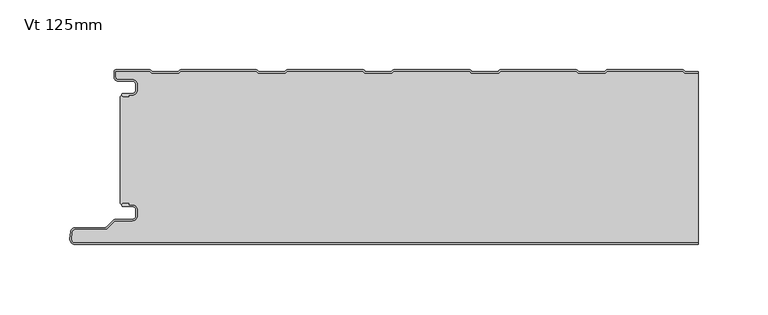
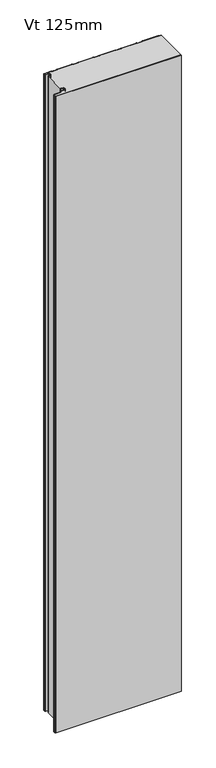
"""IFC4 building model written with IfcOpenShell, lengths in millimetres: plate geometry, KIP-MEX-KSS-1067-R19-CP-Vt-OP_SL : Vt 125mm."""

from ifc_helpers import new_model, si_unit, point, frame, frame_2d, origin, origin_with_axes, place, context, project, spatial, polyline, circle_curve, trimmed, segment, composite_curve, outline, extrude, source, transform, mapped, element, save
from ifc_brep_helpers import plane_surface, cylinder_surface, revolved_surface, advanced_brep


def vt_125mm_141aa0a6(model_context):
    return source(origin(), model_context, "Body", "SolidModel", [
        advanced_brep(
        [(-204.468691, -17.0015159, 2400.0), (-205.4686883, -18.0015191, 2400.0), (-204.468691, -19.0015105, 2400.0), (-200.4684874, -19.0015105, 2400.0), (-200.4684874, -18.0015159, 2400.0), (-197.7762776, -18.0015159, 2400.0), (-194.4762819, -14.7015202, 2400.0), (-194.4762819, -10.301529, 2400.0), (-197.7762774, -7.0015335, 2400.0), (-208.1962563, -7.0015335, 2400.0), (-209.9662505, -5.2315393, 2400.0), (-209.9662505, -0.9999916, 2400.0), (-185.4659738, -0.9999916, 2400.0), (-184.0803312, -2.2002307, 2400.0), (-164.7051649, -2.2002307, 2400.0), (-163.319532, -1.0, 2400.0), (-109.2661166, -1.0, 2400.0), (-107.8804836, -2.2002307, 2400.0), (-88.5053173, -2.2002307, 2400.0), (-87.1196844, -1.0, 2400.0), (-33.066269, -1.0, 2400.0), (-31.680636, -2.2002307, 2400.0), (-12.3054697, -2.2002307, 2400.0), (-10.9198368, -1.0, 2400.0), (43.1335786, -1.0, 2400.0), (44.5192116, -2.2002307, 2400.0), (63.8943779, -2.2002307, 2400.0), (65.2800108, -1.0, 2400.0), (119.3334262, -1.0, 2400.0), (120.7190592, -2.2002307, 2400.0), (140.0942255, -2.2002307, 2400.0), (141.4798584, -1.0, 2400.0), (195.5332738, -1.0, 2400.0), (196.9189068, -2.2002307, 2400.0), (206.4999998, -2.2002307, 2400.0), (206.4999998, -1.2002307, 2400.0), (197.2917872, -1.2002307, 2400.0), (196.3007396, -0.3417885, 2400.0), (195.3841227, 0.0, 2400.0), (141.6290096, 0.0, 2400.0), (140.7123927, -0.3417885, 2400.0), (139.7213451, -1.2002307, 2400.0), (121.0919396, -1.2002307, 2400.0), (120.100892, -0.3417885, 2400.0), (119.1842751, 0.0, 2400.0), (65.429162, 0.0, 2400.0), (64.5125451, -0.3417885, 2400.0), (63.5214975, -1.2002307, 2400.0), (44.892092, -1.2002307, 2400.0), (43.9010444, -0.3417885, 2400.0), (42.9844275, 0.0, 2400.0), (-10.7706856, 0.0, 2400.0), (-11.6873025, -0.3417885, 2400.0), (-12.6783501, -1.2002307, 2400.0), (-31.3077556, -1.2002307, 2400.0), (-32.2988032, -0.3417885, 2400.0), (-33.2154201, 0.0, 2400.0), (-86.9705332, 0.0, 2400.0), (-87.8871501, -0.3417885, 2400.0), (-88.8781977, -1.2002307, 2400.0), (-107.5076032, -1.2002307, 2400.0), (-108.4986508, -0.3417885, 2400.0), (-109.4152677, 0.0, 2400.0), (-163.1703808, 0.0, 2400.0), (-164.0869977, -0.3417885, 2400.0), (-165.0780453, -1.2002307, 2400.0), (-183.7074508, -1.2002307, 2400.0), (-184.6984984, -0.3417885, 2400.0), (-185.6152067, 0.0, 2400.0), (-209.5662543, 8.4e-06, 2400.0), (-210.9662505, -1.3999878, 2400.0), (-210.9662505, -5.2315393, 2400.0), (-208.1962563, -8.0015335, 2400.0), (-197.7762774, -8.0015335, 2400.0), (-195.4762819, -10.301529, 2400.0), (-195.4762819, -14.7015202, 2400.0), (-197.7762776, -17.0015159, 2400.0), (-204.468691, -17.0015159, 0.0), (-197.7762776, -17.0015159, 0.0), (-195.4762819, -14.7015202, 0.0), (-195.4762819, -10.301529, 0.0), (-197.7762774, -8.0015335, 0.0), (-208.1962563, -8.0015335, 0.0), (-210.9662505, -5.2315393, 0.0), (-210.9662505, -1.3999878, 0.0), (-209.5662543, 8.4e-06, 0.0), (-185.6151153, 8.4e-06, 0.0), (-184.6984984, -0.3417885, 0.0), (-183.7074508, -1.2002307, 0.0), (-165.0780453, -1.2002307, 0.0), (-164.0869977, -0.3417885, 0.0), (-163.1703808, 0.0, 0.0), (-109.4152677, 0.0, 0.0), (-108.4986508, -0.3417885, 0.0), (-107.5076032, -1.2002307, 0.0), (-88.8781977, -1.2002307, 0.0), (-87.8871501, -0.3417885, 0.0), (-86.9705332, 0.0, 0.0), (-33.2154201, 0.0, 0.0), (-32.2988032, -0.3417885, 0.0), (-31.3077556, -1.2002307, 0.0), (-12.6783501, -1.2002307, 0.0), (-11.6873025, -0.3417885, 0.0), (-10.7706856, 0.0, 0.0), (42.9844275, 0.0, 0.0), (43.9010444, -0.3417885, 0.0), (44.892092, -1.2002307, 0.0), (63.5214975, -1.2002307, 0.0), (64.5125451, -0.3417885, 0.0), (65.429162, 0.0, 0.0), (119.1842751, 0.0, 0.0), (120.100892, -0.3417885, 0.0), (121.0919396, -1.2002307, 0.0), (139.7213451, -1.2002307, 0.0), (140.7123927, -0.3417885, 0.0), (141.6290096, 0.0, 0.0), (195.3841227, 0.0, 0.0), (196.3007396, -0.3417885, 0.0), (197.2917872, -1.2002307, 0.0), (206.4999998, -1.2002307, 0.0), (206.4999998, -2.2002307, 0.0), (196.9189068, -2.2002307, 0.0), (195.5332738, -1.0, 0.0), (141.4798584, -1.0, 0.0), (140.0942255, -2.2002307, 0.0), (120.7190592, -2.2002307, 0.0), (119.3334262, -1.0, 0.0), (65.2800108, -1.0, 0.0), (63.8943779, -2.2002307, 0.0), (44.5192116, -2.2002307, 0.0), (43.1335786, -1.0, 0.0), (-10.9198368, -1.0, 0.0), (-12.3054697, -2.2002307, 0.0), (-31.680636, -2.2002307, 0.0), (-33.066269, -1.0, 0.0), (-87.1196844, -1.0, 0.0), (-88.5053173, -2.2002307, 0.0), (-107.8804836, -2.2002307, 0.0), (-109.2661166, -1.0, 0.0), (-163.319532, -1.0, 0.0), (-164.7051649, -2.2002307, 0.0), (-184.0803312, -2.2002307, 0.0), (-185.4659738, -0.9999916, 0.0), (-209.9662505, -0.9999916, 0.0), (-209.9662505, -5.2315393, 0.0), (-208.1962563, -7.0015335, 0.0), (-197.7762774, -7.0015335, 0.0), (-194.4762819, -10.301529, 0.0), (-194.4762819, -14.7015202, 0.0), (-197.7762776, -18.0015159, 0.0), (-200.4684874, -18.0015159, 0.0), (-200.4684874, -19.0015105, 0.0), (-204.468691, -19.0015105, 0.0), (-205.4686882, -18.0015192, 0.0)],
        [
            (0, 1, circle_curve(frame((-204.468691, -18.0015132, 2400.0), z_axis=(0.0, 0.0, 1.0), x_axis=(1.0, 0.0, 0.0)), 0.9999973)),
            (1, 2, circle_curve(frame((-204.468691, -18.0015133, 2400.0), z_axis=(0.0, 0.0, 1.0), x_axis=(1.0, 0.0, 0.0)), 0.9999972)),
            (2, 3),
            (3, 4),
            (4, 5),
            (5, 6, circle_curve(frame((-197.7762776, -14.7015202, 2400.0), z_axis=(0.0, 0.0, 1.0), x_axis=(1.0, 0.0, 0.0)), 3.2999957)),
            (6, 7),
            (7, 8, circle_curve(frame((-197.7762774, -10.301529, 2400.0), z_axis=(0.0, 0.0, 1.0), x_axis=(1.0, 0.0, 0.0)), 3.2999955)),
            (8, 9),
            (9, 10, circle_curve(frame((-208.1962563, -5.2315393, 2400.0), z_axis=(0.0, 0.0, -1.0), x_axis=(1.0, 0.0, 0.0)), 1.7699942)),
            (10, 11),
            (11, 12),
            (12, 13),
            (13, 14),
            (14, 15),
            (15, 16),
            (16, 17),
            (17, 18),
            (18, 19),
            (19, 20),
            (20, 21),
            (21, 22),
            (22, 23),
            (23, 24),
            (24, 25),
            (25, 26),
            (26, 27),
            (27, 28),
            (28, 29),
            (29, 30),
            (30, 31),
            (31, 32),
            (32, 33),
            (33, 34),
            (34, 35),
            (35, 36),
            (36, 37),
            (37, 38, circle_curve(frame((195.3841227, -1.3999972, 2400.0), z_axis=(0.0, 0.0, 1.0), x_axis=(1.0, 0.0, 0.0)), 1.3999972)),
            (38, 39),
            (39, 40, circle_curve(frame((141.6290096, -1.3999972, 2400.0), z_axis=(0.0, 0.0, 1.0), x_axis=(1.0, 0.0, 0.0)), 1.3999972)),
            (40, 41),
            (41, 42),
            (42, 43),
            (43, 44, circle_curve(frame((119.1842751, -1.3999972, 2400.0), z_axis=(0.0, 0.0, 1.0), x_axis=(1.0, 0.0, 0.0)), 1.3999972)),
            (44, 45),
            (45, 46, circle_curve(frame((65.429162, -1.3999972, 2400.0), z_axis=(0.0, 0.0, 1.0), x_axis=(1.0, 0.0, 0.0)), 1.3999972)),
            (46, 47),
            (47, 48),
            (48, 49),
            (49, 50, circle_curve(frame((42.9844275, -1.3999972, 2400.0), z_axis=(0.0, 0.0, 1.0), x_axis=(1.0, 0.0, 0.0)), 1.3999972)),
            (50, 51),
            (51, 52, circle_curve(frame((-10.7706856, -1.3999972, 2400.0), z_axis=(0.0, 0.0, 1.0), x_axis=(1.0, 0.0, 0.0)), 1.3999972)),
            (52, 53),
            (53, 54),
            (54, 55),
            (55, 56, circle_curve(frame((-33.2154201, -1.3999972, 2400.0), z_axis=(0.0, 0.0, 1.0), x_axis=(1.0, 0.0, 0.0)), 1.3999972)),
            (56, 57),
            (57, 58, circle_curve(frame((-86.9705332, -1.3999972, 2400.0), z_axis=(0.0, 0.0, 1.0), x_axis=(1.0, 0.0, 0.0)), 1.3999972)),
            (58, 59),
            (59, 60),
            (60, 61),
            (61, 62, circle_curve(frame((-109.4152677, -1.3999972, 2400.0), z_axis=(0.0, 0.0, 1.0), x_axis=(1.0, 0.0, 0.0)), 1.3999972)),
            (62, 63),
            (63, 64, circle_curve(frame((-163.1703808, -1.3999972, 2400.0), z_axis=(0.0, 0.0, 1.0), x_axis=(1.0, 0.0, 0.0)), 1.3999972)),
            (64, 65),
            (65, 66),
            (66, 67),
            (67, 68, circle_curve(frame((-185.6151153, -1.3999972, 2400.0), z_axis=(0.0, 0.0, 1.0), x_axis=(1.0, 0.0, 0.0)), 1.3999972)),
            (68, 69),
            (69, 70, circle_curve(frame((-209.5662543, -1.3999878, 2400.0), z_axis=(0.0, 0.0, 1.0), x_axis=(1.0, 0.0, 0.0)), 1.3999962)),
            (70, 71),
            (71, 72, circle_curve(frame((-208.1962563, -5.2315393, 2400.0), z_axis=(0.0, 0.0, 1.0), x_axis=(1.0, 0.0, 0.0)), 2.7699942)),
            (72, 73),
            (73, 74, circle_curve(frame((-197.7762774, -10.301529, 2400.0), z_axis=(0.0, 0.0, -1.0), x_axis=(1.0, 0.0, 0.0)), 2.2999955)),
            (74, 75),
            (75, 76, circle_curve(frame((-197.7762776, -14.7015202, 2400.0), z_axis=(0.0, 0.0, -1.0), x_axis=(1.0, 0.0, 0.0)), 2.2999957)),
            (76, 0),
            (77, 78),
            (78, 79, circle_curve(frame((-197.7762776, -14.7015202, 0.0), z_axis=(0.0, 0.0, 1.0), x_axis=(1.0, 0.0, 0.0)), 2.2999957)),
            (79, 80),
            (80, 81, circle_curve(frame((-197.7762774, -10.301529, 0.0), z_axis=(0.0, 0.0, 1.0), x_axis=(1.0, 0.0, 0.0)), 2.2999955)),
            (81, 82),
            (82, 83, circle_curve(frame((-208.1962563, -5.2315393, 0.0), z_axis=(0.0, 0.0, -1.0), x_axis=(1.0, 0.0, 0.0)), 2.7699942)),
            (83, 84),
            (84, 85, circle_curve(frame((-209.5662543, -1.3999878, 0.0), z_axis=(0.0, 0.0, -1.0), x_axis=(1.0, 0.0, 0.0)), 1.3999962)),
            (85, 86),
            (86, 87, circle_curve(frame((-185.6151153, -1.3999972, 0.0), z_axis=(0.0, 0.0, -1.0), x_axis=(1.0, 0.0, 0.0)), 1.3999972)),
            (87, 88),
            (88, 89),
            (89, 90),
            (90, 91, circle_curve(frame((-163.1703808, -1.3999972, 0.0), z_axis=(0.0, 0.0, -1.0), x_axis=(1.0, 0.0, 0.0)), 1.3999972)),
            (91, 92),
            (92, 93, circle_curve(frame((-109.4152677, -1.3999972, 0.0), z_axis=(0.0, 0.0, -1.0), x_axis=(1.0, 0.0, 0.0)), 1.3999972)),
            (93, 94),
            (94, 95),
            (95, 96),
            (96, 97, circle_curve(frame((-86.9705332, -1.3999972, 0.0), z_axis=(0.0, 0.0, -1.0), x_axis=(1.0, 0.0, 0.0)), 1.3999972)),
            (97, 98),
            (98, 99, circle_curve(frame((-33.2154201, -1.3999972, 0.0), z_axis=(0.0, 0.0, -1.0), x_axis=(1.0, 0.0, 0.0)), 1.3999972)),
            (99, 100),
            (100, 101),
            (101, 102),
            (102, 103, circle_curve(frame((-10.7706856, -1.3999972, 0.0), z_axis=(0.0, 0.0, -1.0), x_axis=(1.0, 0.0, 0.0)), 1.3999972)),
            (103, 104),
            (104, 105, circle_curve(frame((42.9844275, -1.3999972, 0.0), z_axis=(0.0, 0.0, -1.0), x_axis=(1.0, 0.0, 0.0)), 1.3999972)),
            (105, 106),
            (106, 107),
            (107, 108),
            (108, 109, circle_curve(frame((65.429162, -1.3999972, 0.0), z_axis=(0.0, 0.0, -1.0), x_axis=(1.0, 0.0, 0.0)), 1.3999972)),
            (109, 110),
            (110, 111, circle_curve(frame((119.1842751, -1.3999972, 0.0), z_axis=(0.0, 0.0, -1.0), x_axis=(1.0, 0.0, 0.0)), 1.3999972)),
            (111, 112),
            (112, 113),
            (113, 114),
            (114, 115, circle_curve(frame((141.6290096, -1.3999972, 0.0), z_axis=(0.0, 0.0, -1.0), x_axis=(1.0, 0.0, 0.0)), 1.3999972)),
            (115, 116),
            (116, 117, circle_curve(frame((195.3841227, -1.3999972, 0.0), z_axis=(0.0, 0.0, -1.0), x_axis=(1.0, 0.0, 0.0)), 1.3999972)),
            (117, 118),
            (118, 119),
            (119, 120),
            (120, 121),
            (121, 122),
            (122, 123),
            (123, 124),
            (124, 125),
            (125, 126),
            (126, 127),
            (127, 128),
            (128, 129),
            (129, 130),
            (130, 131),
            (131, 132),
            (132, 133),
            (133, 134),
            (134, 135),
            (135, 136),
            (136, 137),
            (137, 138),
            (138, 139),
            (139, 140),
            (140, 141),
            (141, 142),
            (142, 143),
            (143, 144),
            (144, 145, circle_curve(frame((-208.1962563, -5.2315393, 0.0), z_axis=(0.0, 0.0, 1.0), x_axis=(1.0, 0.0, 0.0)), 1.7699942)),
            (145, 146),
            (146, 147, circle_curve(frame((-197.7762774, -10.301529, 0.0), z_axis=(0.0, 0.0, -1.0), x_axis=(1.0, 0.0, 0.0)), 3.2999955)),
            (147, 148),
            (148, 149, circle_curve(frame((-197.7762776, -14.7015202, 0.0), z_axis=(0.0, 0.0, -1.0), x_axis=(1.0, 0.0, 0.0)), 3.2999957)),
            (149, 150),
            (150, 151),
            (151, 152),
            (152, 153, circle_curve(frame((-204.468691, -18.0015133, 0.0), z_axis=(0.0, 0.0, -1.0), x_axis=(1.0, 0.0, 0.0)), 0.9999972)),
            (153, 77, circle_curve(frame((-204.468691, -18.0015132, 0.0), z_axis=(0.0, 0.0, -1.0), x_axis=(1.0, 0.0, 0.0)), 0.9999973)),
            (76, 78),
            (77, 0),
            (75, 79),
            (74, 80),
            (73, 81),
            (72, 82),
            (71, 83),
            (70, 84),
            (69, 85),
            (68, 86),
            (67, 87),
            (66, 88),
            (65, 89),
            (64, 90),
            (63, 91),
            (62, 92),
            (61, 93),
            (60, 94),
            (59, 95),
            (58, 96),
            (57, 97),
            (56, 98),
            (55, 99),
            (54, 100),
            (53, 101),
            (52, 102),
            (51, 103),
            (50, 104),
            (49, 105),
            (48, 106),
            (47, 107),
            (46, 108),
            (45, 109),
            (44, 110),
            (43, 111),
            (42, 112),
            (41, 113),
            (40, 114),
            (39, 115),
            (38, 116),
            (37, 117),
            (36, 118),
            (35, 119),
            (120, 34),
            (33, 121),
            (32, 122),
            (31, 123),
            (30, 124),
            (29, 125),
            (28, 126),
            (27, 127),
            (26, 128),
            (25, 129),
            (24, 130),
            (23, 131),
            (22, 132),
            (21, 133),
            (20, 134),
            (19, 135),
            (18, 136),
            (17, 137),
            (16, 138),
            (15, 139),
            (14, 140),
            (13, 141),
            (12, 142),
            (11, 143),
            (10, 144),
            (9, 145),
            (8, 146),
            (7, 147),
            (6, 148),
            (5, 149),
            (4, 150),
            (3, 151),
            (2, 152),
            (1, 153),
        ],
        [
            plane_surface(frame((326.9000002, 0.0, 2400.0), z_axis=(0.0, 0.0, 1.0), x_axis=(0.0, 1.0, 0.0))),
            plane_surface(frame((326.9000002, 0.0, 0.0), z_axis=(0.0, 0.0, -1.0), x_axis=(0.0, 1.0, 0.0))),
            plane_surface(frame((-204.468691, -17.0015159, 2400.0), z_axis=(0.0, 1.0, 0.0), x_axis=(0.0, 0.0, -1.0))),
            revolved_surface(polyline([(-195.47628189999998, -14.7015202, 0.0), (-195.47628189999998, -14.7015202, 2400.0)]), (-197.7762776, -14.7015202, 2400.0), (0.0, 0.0, -1.0)),
            plane_surface(frame((-195.4762819, -14.7015202, 2400.0), z_axis=(-1.0, 0.0, 0.0), x_axis=(0.0, 0.0, -1.0))),
            revolved_surface(polyline([(-195.4762819, -10.301529, 0.0), (-195.4762819, -10.301529, 2400.0)]), (-197.7762774, -10.301529, 2400.0), (0.0, 0.0, -1.0)),
            plane_surface(frame((-197.7762774, -8.0015335, 2400.0), z_axis=(0.0, -1.0, 0.0), x_axis=(0.0, 0.0, -1.0))),
            cylinder_surface(frame((-208.1962563, -5.2315393, 2400.0), z_axis=(0.0, 0.0, 1.0), x_axis=(1.0, 0.0, 0.0)), 2.7699942),
            plane_surface(frame((-210.9662505, -5.2315393, 2400.0), z_axis=(-1.0, 0.0, 0.0), x_axis=(0.0, 0.0, -1.0))),
            cylinder_surface(frame((-209.5662543, -1.3999878, 2400.0), z_axis=(0.0, 0.0, 1.0), x_axis=(1.0, 0.0, 0.0)), 1.3999962),
            plane_surface(frame((-209.5662543, 8.4e-06, 2400.0), z_axis=(0.0, 1.0, 0.0), x_axis=(0.0, 0.0, -1.0))),
            cylinder_surface(frame((-185.6151153, -1.3999972, 2400.0), z_axis=(0.0, 0.0, 1.0), x_axis=(1.0, 0.0, 0.0)), 1.3999972),
            plane_surface(frame((-184.6984984, -0.3417885, 2400.0), z_axis=(0.6547276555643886, 0.755864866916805, 0.0), x_axis=(0.0, 0.0, -1.0))),
            plane_surface(frame((-174.3927481, -1.2002307, 2400.0), z_axis=(0.0, 1.0, 0.0), x_axis=(0.0, 0.0, -1.0))),
            plane_surface(frame((-165.0780453, -1.2002307, 2400.0), z_axis=(-0.6547276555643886, 0.755864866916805, 0.0), x_axis=(0.0, 0.0, -1.0))),
            cylinder_surface(frame((-163.1703808, -1.3999972, 2400.0), z_axis=(0.0, 0.0, 1.0), x_axis=(1.0, 0.0, 0.0)), 1.3999972),
            plane_surface(frame((-163.1703808, 0.0, 2400.0), z_axis=(0.0, 1.0, 0.0), x_axis=(0.0, 0.0, -1.0))),
            cylinder_surface(frame((-109.4152677, -1.3999972, 2400.0), z_axis=(0.0, 0.0, 1.0), x_axis=(1.0, 0.0, 0.0)), 1.3999972),
            plane_surface(frame((-108.4986508, -0.3417885, 2400.0), z_axis=(0.6547276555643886, 0.755864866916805, 0.0), x_axis=(0.0, 0.0, -1.0))),
            plane_surface(frame((-98.1929005, -1.2002307, 2400.0), z_axis=(0.0, 1.0, 0.0), x_axis=(0.0, 0.0, -1.0))),
            plane_surface(frame((-88.8781977, -1.2002307, 2400.0), z_axis=(-0.6547276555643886, 0.755864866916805, 0.0), x_axis=(0.0, 0.0, -1.0))),
            cylinder_surface(frame((-86.9705332, -1.3999972, 2400.0), z_axis=(0.0, 0.0, 1.0), x_axis=(1.0, 0.0, 0.0)), 1.3999972),
            plane_surface(frame((-86.9705332, 0.0, 2400.0), z_axis=(0.0, 1.0, 0.0), x_axis=(0.0, 0.0, -1.0))),
            cylinder_surface(frame((-33.2154201, -1.3999972, 2400.0), z_axis=(0.0, 0.0, 1.0), x_axis=(1.0, 0.0, 0.0)), 1.3999972),
            plane_surface(frame((-32.2988032, -0.3417885, 2400.0), z_axis=(0.6547276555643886, 0.755864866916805, 0.0), x_axis=(0.0, 0.0, -1.0))),
            plane_surface(frame((-21.9930529, -1.2002307, 2400.0), z_axis=(0.0, 1.0, 0.0), x_axis=(0.0, 0.0, -1.0))),
            plane_surface(frame((-12.6783501, -1.2002307, 2400.0), z_axis=(-0.6547276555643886, 0.755864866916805, 0.0), x_axis=(0.0, 0.0, -1.0))),
            cylinder_surface(frame((-10.7706856, -1.3999972, 2400.0), z_axis=(0.0, 0.0, 1.0), x_axis=(1.0, 0.0, 0.0)), 1.3999972),
            plane_surface(frame((-10.7706856, 0.0, 2400.0), z_axis=(0.0, 1.0, 0.0), x_axis=(0.0, 0.0, -1.0))),
            cylinder_surface(frame((42.9844275, -1.3999972, 2400.0), z_axis=(0.0, 0.0, 1.0), x_axis=(1.0, 0.0, 0.0)), 1.3999972),
            plane_surface(frame((43.9010444, -0.3417885, 2400.0), z_axis=(0.6547276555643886, 0.755864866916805, 0.0), x_axis=(0.0, 0.0, -1.0))),
            plane_surface(frame((54.2067947, -1.2002307, 2400.0), z_axis=(0.0, 1.0, 0.0), x_axis=(0.0, 0.0, -1.0))),
            plane_surface(frame((63.5214975, -1.2002307, 2400.0), z_axis=(-0.6547276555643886, 0.755864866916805, 0.0), x_axis=(0.0, 0.0, -1.0))),
            cylinder_surface(frame((65.429162, -1.3999972, 2400.0), z_axis=(0.0, 0.0, 1.0), x_axis=(1.0, 0.0, 0.0)), 1.3999972),
            plane_surface(frame((65.429162, 0.0, 2400.0), z_axis=(0.0, 1.0, 0.0), x_axis=(0.0, 0.0, -1.0))),
            cylinder_surface(frame((119.1842751, -1.3999972, 2400.0), z_axis=(0.0, 0.0, 1.0), x_axis=(1.0, 0.0, 0.0)), 1.3999972),
            plane_surface(frame((120.100892, -0.3417885, 2400.0), z_axis=(0.6547276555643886, 0.755864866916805, 0.0), x_axis=(0.0, 0.0, -1.0))),
            plane_surface(frame((130.4066423, -1.2002307, 2400.0), z_axis=(0.0, 1.0, 0.0), x_axis=(0.0, 0.0, -1.0))),
            plane_surface(frame((139.7213451, -1.2002307, 2400.0), z_axis=(-0.6547276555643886, 0.755864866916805, 0.0), x_axis=(0.0, 0.0, -1.0))),
            cylinder_surface(frame((141.6290096, -1.3999972, 2400.0), z_axis=(0.0, 0.0, 1.0), x_axis=(1.0, 0.0, 0.0)), 1.3999972),
            plane_surface(frame((141.6290096, 0.0, 2400.0), z_axis=(0.0, 1.0, 0.0), x_axis=(0.0, 0.0, -1.0))),
            cylinder_surface(frame((195.3841227, -1.3999972, 2400.0), z_axis=(0.0, 0.0, 1.0), x_axis=(1.0, 0.0, 0.0)), 1.3999972),
            plane_surface(frame((196.3007396, -0.3417885, 2400.0), z_axis=(0.6547276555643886, 0.755864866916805, 0.0), x_axis=(0.0, 0.0, -1.0))),
            plane_surface(frame((206.6064899, -1.2002307, 2400.0), z_axis=(0.0, 1.0, 0.0), x_axis=(0.0, 0.0, -1.0))),
            plane_surface(frame((216.2940731, -2.2002307, 2400.0), z_axis=(0.0, -1.0, 0.0), x_axis=(0.0, 0.0, -1.0))),
            plane_surface(frame((196.9189068, -2.2002307, 2400.0), z_axis=(-0.6547276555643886, -0.755864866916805, 0.0), x_axis=(0.0, 0.0, -1.0))),
            plane_surface(frame((195.5332738, -1.0, 2400.0), z_axis=(0.0, -1.0, 0.0), x_axis=(0.0, 0.0, -1.0))),
            plane_surface(frame((141.4798584, -1.0, 2400.0), z_axis=(0.6547276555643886, -0.755864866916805, 0.0), x_axis=(0.0, 0.0, -1.0))),
            plane_surface(frame((140.0942255, -2.2002307, 2400.0), z_axis=(0.0, -1.0, 0.0), x_axis=(0.0, 0.0, -1.0))),
            plane_surface(frame((120.7190592, -2.2002307, 2400.0), z_axis=(-0.6547276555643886, -0.755864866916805, 0.0), x_axis=(0.0, 0.0, -1.0))),
            plane_surface(frame((119.3334262, -1.0, 2400.0), z_axis=(0.0, -1.0, 0.0), x_axis=(0.0, 0.0, -1.0))),
            plane_surface(frame((65.2800108, -1.0, 2400.0), z_axis=(0.6547276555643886, -0.755864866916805, 0.0), x_axis=(0.0, 0.0, -1.0))),
            plane_surface(frame((63.8943779, -2.2002307, 2400.0), z_axis=(0.0, -1.0, 0.0), x_axis=(0.0, 0.0, -1.0))),
            plane_surface(frame((44.5192116, -2.2002307, 2400.0), z_axis=(-0.6547276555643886, -0.755864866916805, 0.0), x_axis=(0.0, 0.0, -1.0))),
            plane_surface(frame((43.1335786, -1.0, 2400.0), z_axis=(0.0, -1.0, 0.0), x_axis=(0.0, 0.0, -1.0))),
            plane_surface(frame((-10.9198368, -1.0, 2400.0), z_axis=(0.6547276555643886, -0.755864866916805, 0.0), x_axis=(0.0, 0.0, -1.0))),
            plane_surface(frame((-12.3054697, -2.2002307, 2400.0), z_axis=(0.0, -1.0, 0.0), x_axis=(0.0, 0.0, -1.0))),
            plane_surface(frame((-31.680636, -2.2002307, 2400.0), z_axis=(-0.6547276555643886, -0.755864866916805, 0.0), x_axis=(0.0, 0.0, -1.0))),
            plane_surface(frame((-33.066269, -1.0, 2400.0), z_axis=(0.0, -1.0, 0.0), x_axis=(0.0, 0.0, -1.0))),
            plane_surface(frame((-87.1196844, -1.0, 2400.0), z_axis=(0.6547276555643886, -0.755864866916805, 0.0), x_axis=(0.0, 0.0, -1.0))),
            plane_surface(frame((-88.5053173, -2.2002307, 2400.0), z_axis=(0.0, -1.0, 0.0), x_axis=(0.0, 0.0, -1.0))),
            plane_surface(frame((-107.8804836, -2.2002307, 2400.0), z_axis=(-0.6547276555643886, -0.755864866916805, 0.0), x_axis=(0.0, 0.0, -1.0))),
            plane_surface(frame((-109.2661166, -1.0, 2400.0), z_axis=(0.0, -1.0, 0.0), x_axis=(0.0, 0.0, -1.0))),
            plane_surface(frame((-163.319532, -1.0, 2400.0), z_axis=(0.6547276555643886, -0.755864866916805, 0.0), x_axis=(0.0, 0.0, -1.0))),
            plane_surface(frame((-164.7051649, -2.2002307, 2400.0), z_axis=(0.0, -1.0, 0.0), x_axis=(0.0, 0.0, -1.0))),
            plane_surface(frame((-184.0803312, -2.2002307, 2400.0), z_axis=(-0.6547276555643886, -0.755864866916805, 0.0), x_axis=(0.0, 0.0, -1.0))),
            plane_surface(frame((-185.4659738, -0.9999916, 2400.0), z_axis=(0.0, -1.0, 0.0), x_axis=(0.0, 0.0, -1.0))),
            plane_surface(frame((-209.9662505, -0.9999916, 2400.0), z_axis=(1.0, 0.0, 0.0), x_axis=(0.0, 0.0, -1.0))),
            revolved_surface(polyline([(-206.42626209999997, -5.2315393, 0.0), (-206.42626209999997, -5.2315393, 2400.0)]), (-208.1962563, -5.2315393, 2400.0), (0.0, 0.0, -1.0)),
            plane_surface(frame((-208.1962563, -7.0015335, 2400.0), z_axis=(0.0, 1.0, 0.0), x_axis=(0.0, 0.0, -1.0))),
            cylinder_surface(frame((-197.7762774, -10.301529, 2400.0), z_axis=(0.0, 0.0, 1.0), x_axis=(1.0, 0.0, 0.0)), 3.2999955),
            plane_surface(frame((-194.4762819, -10.301529, 2400.0), z_axis=(1.0, 0.0, 0.0), x_axis=(0.0, 0.0, -1.0))),
            cylinder_surface(frame((-197.7762776, -14.7015202, 2400.0), z_axis=(0.0, 0.0, 1.0), x_axis=(1.0, 0.0, 0.0)), 3.2999957),
            plane_surface(frame((-197.7762776, -18.0015159, 2400.0), z_axis=(0.0, -1.0, 0.0), x_axis=(0.0, 0.0, -1.0))),
            plane_surface(frame((-200.4684874, -18.0015159, 2400.0), z_axis=(1.0, 0.0, 0.0), x_axis=(0.0, 0.0, -1.0))),
            plane_surface(frame((-200.4684874, -19.0015105, 2400.0), z_axis=(0.0, -1.0, 0.0), x_axis=(0.0, 0.0, -1.0))),
            cylinder_surface(frame((-204.468691, -18.0015133, 2400.0), z_axis=(0.0, 0.0, 1.0), x_axis=(1.0, 0.0, 0.0)), 0.9999972),
            cylinder_surface(frame((-204.468691, -18.0015132, 2400.0), z_axis=(0.0, 0.0, 1.0), x_axis=(1.0, 0.0, 0.0)), 0.9999973),
            plane_surface(frame((206.4999998, -135.0, 2400.0), z_axis=(1.0, 0.0, 0.0), x_axis=(0.0, 0.0, -1.0))),
        ],
        [
            (0, [[1, 2, 3, 4, 5, 6, 7, 8, 9, 10, 11, 12, 13, 14, 15, 16, 17, 18, 19, 20, 21, 22, 23, 24, 25, 26, 27, 28, 29, 30, 31, 32, 33, 34, 35, 36, 37, 38, 39, 40, 41, 42, 43, 44, 45, 46, 47, 48, 49, 50, 51, 52, 53, 54, 55, 56, 57, 58, 59, 60, 61, 62, 63, 64, 65, 66, 67, 68, 69, 70, 71, 72, 73, 74, 75, 76, 77]]),
            (1, [[78, 79, 80, 81, 82, 83, 84, 85, 86, 87, 88, 89, 90, 91, 92, 93, 94, 95, 96, 97, 98, 99, 100, 101, 102, 103, 104, 105, 106, 107, 108, 109, 110, 111, 112, 113, 114, 115, 116, 117, 118, 119, 120, 121, 122, 123, 124, 125, 126, 127, 128, 129, 130, 131, 132, 133, 134, 135, 136, 137, 138, 139, 140, 141, 142, 143, 144, 145, 146, 147, 148, 149, 150, 151, 152, 153, 154]]),
            (2, [[155, -78, 156, -77]]),
            (3, [[157, -79, -155, -76]]),
            (4, [[158, -80, -157, -75]]),
            (5, [[159, -81, -158, -74]]),
            (6, [[160, -82, -159, -73]]),
            (7, [[161, -83, -160, -72]]),
            (8, [[162, -84, -161, -71]]),
            (9, [[163, -85, -162, -70]]),
            (10, [[164, -86, -163, -69]]),
            (11, [[165, -87, -164, -68]]),
            (12, [[166, -88, -165, -67]]),
            (13, [[167, -89, -166, -66]]),
            (14, [[168, -90, -167, -65]]),
            (15, [[169, -91, -168, -64]]),
            (16, [[170, -92, -169, -63]]),
            (17, [[171, -93, -170, -62]]),
            (18, [[172, -94, -171, -61]]),
            (19, [[173, -95, -172, -60]]),
            (20, [[174, -96, -173, -59]]),
            (21, [[175, -97, -174, -58]]),
            (22, [[176, -98, -175, -57]]),
            (23, [[177, -99, -176, -56]]),
            (24, [[178, -100, -177, -55]]),
            (25, [[179, -101, -178, -54]]),
            (26, [[180, -102, -179, -53]]),
            (27, [[181, -103, -180, -52]]),
            (28, [[182, -104, -181, -51]]),
            (29, [[183, -105, -182, -50]]),
            (30, [[184, -106, -183, -49]]),
            (31, [[185, -107, -184, -48]]),
            (32, [[186, -108, -185, -47]]),
            (33, [[187, -109, -186, -46]]),
            (34, [[188, -110, -187, -45]]),
            (35, [[189, -111, -188, -44]]),
            (36, [[190, -112, -189, -43]]),
            (37, [[191, -113, -190, -42]]),
            (38, [[192, -114, -191, -41]]),
            (39, [[193, -115, -192, -40]]),
            (40, [[194, -116, -193, -39]]),
            (41, [[195, -117, -194, -38]]),
            (42, [[196, -118, -195, -37]]),
            (43, [[-36, 197, -119, -196]]),
            (44, [[-121, 198, -34, 199]]),
            (45, [[200, -122, -199, -33]]),
            (46, [[201, -123, -200, -32]]),
            (47, [[202, -124, -201, -31]]),
            (48, [[203, -125, -202, -30]]),
            (49, [[204, -126, -203, -29]]),
            (50, [[205, -127, -204, -28]]),
            (51, [[206, -128, -205, -27]]),
            (52, [[207, -129, -206, -26]]),
            (53, [[208, -130, -207, -25]]),
            (54, [[209, -131, -208, -24]]),
            (55, [[210, -132, -209, -23]]),
            (56, [[211, -133, -210, -22]]),
            (57, [[212, -134, -211, -21]]),
            (58, [[213, -135, -212, -20]]),
            (59, [[214, -136, -213, -19]]),
            (60, [[215, -137, -214, -18]]),
            (61, [[216, -138, -215, -17]]),
            (62, [[217, -139, -216, -16]]),
            (63, [[218, -140, -217, -15]]),
            (64, [[219, -141, -218, -14]]),
            (65, [[220, -142, -219, -13]]),
            (66, [[221, -143, -220, -12]]),
            (67, [[222, -144, -221, -11]]),
            (68, [[223, -145, -222, -10]]),
            (69, [[224, -146, -223, -9]]),
            (70, [[225, -147, -224, -8]]),
            (71, [[226, -148, -225, -7]]),
            (72, [[227, -149, -226, -6]]),
            (73, [[228, -150, -227, -5]]),
            (74, [[229, -151, -228, -4]]),
            (75, [[230, -152, -229, -3]]),
            (76, [[231, -153, -230, -2]]),
            (77, [[-156, -154, -231, -1]]),
            (78, [[-198, -120, -197, -35]]),
        ],
    ),
        extrude(outline(composite_curve([segment(polyline([(-242.5087619, -121.1184903), (-242.0690674, -116.0944437)]), True, "CONTINUOUS"), segment(trimmed(circle_curve(frame_2d((-238.4198391, -116.7052448)), 3.6999926), [point((-242.0690674, -116.0944437))], [point((-238.4198391, -113.0052522))], False, "CARTESIAN"), True, "CONTINUOUS"), segment(polyline([(-238.4198391, -113.0052522), (-217.2773995, -113.0052522)]), True, "CONTINUOUS"), segment(trimmed(circle_curve(frame_2d((-217.2773995, -111.7052548)), 1.2999974), [point((-217.2773995, -113.0052522))], [point((-216.3581626, -112.6244918))], True, "CARTESIAN"), True, "CONTINUOUS"), segment(polyline([(-216.3581626, -112.6244918), (-211.5297451, -107.7960743)]), True, "CONTINUOUS"), segment(trimmed(circle_curve(frame_2d((-209.6205606, -109.7052588)), 2.6999946), [point((-211.5297451, -107.7960743))], [point((-209.6205606, -107.0052642))], False, "CARTESIAN"), True, "CONTINUOUS"), segment(polyline([(-209.6205606, -107.0052642), (-197.8096715, -107.0052642)]), True, "CONTINUOUS"), segment(trimmed(circle_curve(frame_2d((-197.8096715, -104.6552689)), 2.3499953), [point((-197.8096715, -107.0052642))], [point((-195.4596762, -104.6552689))], True, "CARTESIAN"), True, "CONTINUOUS"), segment(polyline([(-195.4596762, -104.6552689), (-195.4596762, -100.2552777)]), True, "CONTINUOUS"), segment(trimmed(circle_curve(frame_2d((-197.8096715, -100.2552777)), 2.3499953), [point((-195.4596762, -100.2552777))], [point((-197.8096715, -97.9052824))], True, "CARTESIAN"), True, "CONTINUOUS"), segment(polyline([(-197.8096715, -97.9052824), (-204.3289777, -97.9052824)]), True, "CONTINUOUS"), segment(trimmed(circle_curve(frame_2d((-204.2686906, -96.7068002)), 1.1999976), [point((-204.3289777, -97.9052824))], [point((-205.4683, -96.6762782))], False, "CARTESIAN"), True, "CONTINUOUS"), segment(trimmed(circle_curve(frame_2d((-204.2686906, -96.7068002)), 1.1999976), [point((-205.4683, -96.6762782))], [point((-204.267176, -95.5068035))], False, "CARTESIAN"), True, "CONTINUOUS"), segment(polyline([(-204.267176, -95.5068035), (-200.5087826, -95.5068035), (-200.5087826, -96.9052824), (-197.8096715, -96.9052824)]), True, "CONTINUOUS"), segment(trimmed(circle_curve(frame_2d((-197.8096715, -100.2552777)), 3.3499953), [point((-197.8096715, -96.9052824))], [point((-194.4596762, -100.2552777))], False, "CARTESIAN"), True, "CONTINUOUS"), segment(polyline([(-194.4596762, -100.2552777), (-194.4596762, -104.6552689)]), True, "CONTINUOUS"), segment(trimmed(circle_curve(frame_2d((-197.8096715, -104.6552689)), 3.3499953), [point((-194.4596762, -104.6552689))], [point((-197.8096715, -108.0052642))], False, "CARTESIAN"), True, "CONTINUOUS"), segment(polyline([(-197.8096715, -108.0052642), (-209.6205606, -108.0052642)]), True, "CONTINUOUS"), segment(trimmed(circle_curve(frame_2d((-209.6205606, -109.7052588)), 1.6999946), [point((-209.6205606, -108.0052642))], [point((-210.8226383, -108.5031811))], True, "CARTESIAN"), True, "CONTINUOUS"), segment(polyline([(-210.8226383, -108.5031811), (-216.3247094, -114.0052522), (-238.4198391, -114.0052522)]), True, "CONTINUOUS"), segment(trimmed(circle_curve(frame_2d((-238.4198391, -116.7052448)), 2.6999926), [point((-238.4198391, -114.0052522))], [point((-241.0765707, -116.2238542))], True, "CARTESIAN"), True, "CONTINUOUS"), segment(polyline([(-241.0765707, -116.2238542), (-241.5125697, -121.2056751)]), True, "CONTINUOUS"), segment(trimmed(circle_curve(frame_2d((-238.9521175, -121.4297607)), 2.5702393), [point((-241.5125697, -121.2056751))], [point((-239.0094458, -123.9993606))], True, "CARTESIAN"), True, "CONTINUOUS"), segment(polyline([(-239.0094458, -123.9993606), (206.4999998, -123.9993606), (206.4999998, -125.0), (-238.9521175, -125.0)]), True, "CONTINUOUS"), segment(trimmed(circle_curve(frame_2d((-238.9521175, -121.4297607)), 3.5702393), [point((-238.9521175, -125.0))], [point((-242.5087619, -121.1184903))], False, "CARTESIAN"), True, "CONTINUOUS")], self_intersect=False)), origin_with_axes(), (0.0, 0.0, 1.0), 2400.0),
        advanced_brep(
        [(-205.4683, -96.670875, 2400.0), (-204.267176, -95.5014003, 2400.0), (-200.5087826, -95.5014003, 2400.0), (-200.5087826, -96.8998791, 2400.0), (-197.8096715, -96.8998791, 2400.0), (-194.4596762, -100.2498744, 2400.0), (-194.4596762, -104.6498656, 2400.0), (-197.8096715, -107.9998609, 2400.0), (-209.6205606, -107.9998609, 2400.0), (-210.8226383, -108.4977778, 2400.0), (-216.3247094, -113.9998489, 2400.0), (-238.4198391, -113.9998489, 2400.0), (-241.0765707, -116.2184509, 2400.0), (-241.5125697, -121.2002718, 2400.0), (-238.9521175, -123.9945967, 2400.0), (206.4999998, -124.0, 2400.0), (206.4999998, -2.2002307, 2400.0), (196.9189068, -2.2002307, 2400.0), (195.5332739, -1.0, 2400.0), (141.4798585, -1.0, 2400.0), (140.0942255, -2.2002307, 2400.0), (120.7190592, -2.2002307, 2400.0), (119.3334263, -1.0, 2400.0), (65.2800109, -1.0, 2400.0), (63.8943779, -2.2002307, 2400.0), (44.5192116, -2.2002307, 2400.0), (43.1335787, -1.0, 2400.0), (-10.9198367, -1.0, 2400.0), (-12.3054697, -2.2002307, 2400.0), (-31.680636, -2.2002307, 2400.0), (-33.0662689, -1.0, 2400.0), (-87.1196843, -1.0, 2400.0), (-88.5053173, -2.2002307, 2400.0), (-107.8804836, -2.2002307, 2400.0), (-109.2661165, -1.0, 2400.0), (-163.3195319, -1.0, 2400.0), (-164.7051649, -2.2002307, 2400.0), (-184.0803312, -2.2002307, 2400.0), (-185.4659738, -0.9999916, 2400.0), (-209.9662504, -0.9999916, 2400.0), (-209.9662504, -5.2315389, 2400.0), (-208.1962562, -7.0015331, 2400.0), (-197.7762777, -7.0015331, 2400.0), (-194.4762818, -10.301529, 2400.0), (-194.4762818, -14.7015202, 2400.0), (-197.7762775, -18.0015159, 2400.0), (-200.4684873, -18.0015159, 2400.0), (-200.4684873, -19.0015105, 2400.0), (-204.468691, -19.0015105, 2400.0), (-205.4686882, -18.0015192, 2400.0), (-206.4999998, -19.0328308, 2400.0), (-206.4999998, -95.6391751, 2400.0), (-205.4683, -96.670875, 0.0), (-206.4999998, -95.6391751, 0.0), (-206.4999998, -19.0328308, 0.0), (-205.4686882, -18.0015192, 0.0), (-204.468691, -19.0015105, 0.0), (-200.4684873, -19.0015105, 0.0), (-200.4684873, -18.0015159, 0.0), (-197.7762775, -18.0015159, 0.0), (-194.4762818, -14.7015202, 0.0), (-194.4762818, -10.301529, 0.0), (-197.7762777, -7.0015331, 0.0), (-208.1962562, -7.0015331, 0.0), (-209.9662504, -5.2315389, 0.0), (-209.9662504, -0.9999916, 0.0), (-185.4659738, -0.9999916, 0.0), (-184.0803312, -2.2002307, 0.0), (-164.7051649, -2.2002307, 0.0), (-163.3195319, -1.0, 0.0), (-109.2661165, -1.0, 0.0), (-107.8804836, -2.2002307, 0.0), (-88.5053173, -2.2002307, 0.0), (-87.1196843, -1.0, 0.0), (-33.0662689, -1.0, 0.0), (-31.680636, -2.2002307, 0.0), (-12.3054697, -2.2002307, 0.0), (-10.9198367, -1.0, 0.0), (43.1335787, -1.0, 0.0), (44.5192116, -2.2002307, 0.0), (63.8943779, -2.2002307, 0.0), (65.2800109, -1.0, 0.0), (119.3334263, -1.0, 0.0), (120.7190592, -2.2002307, 0.0), (140.0942255, -2.2002307, 0.0), (141.4798585, -1.0, 0.0), (195.5332739, -1.0, 0.0), (196.9189068, -2.2002307, 0.0), (206.4999998, -2.2002307, 0.0), (206.4999998, -124.0, 0.0), (-238.9521175, -124.0, 0.0), (-241.5125697, -121.2002718, 0.0), (-241.0765707, -116.2184509, 0.0), (-238.4198391, -113.9998489, 0.0), (-216.3247094, -113.9998489, 0.0), (-210.8226383, -108.4977778, 0.0), (-209.6205606, -107.9998609, 0.0), (-197.8096715, -107.9998609, 0.0), (-194.4596762, -104.6498656, 0.0), (-194.4596762, -100.2498744, 0.0), (-197.8096715, -96.8998791, 0.0), (-200.5087826, -96.8998791, 0.0), (-200.5087826, -95.5014003, 0.0), (-204.267176, -95.5014003, 0.0)],
        [
            (0, 1, circle_curve(frame((-204.2686906, -96.7013969, 2400.0), z_axis=(0.0, 0.0, -1.0), x_axis=(-1.0, 0.0, 0.0)), 1.1999976)),
            (1, 2),
            (2, 3),
            (3, 4),
            (4, 5, circle_curve(frame((-197.8096715, -100.2498744, 2400.0), z_axis=(0.0, 0.0, -1.0), x_axis=(-1.0, 0.0, 0.0)), 3.3499953)),
            (5, 6),
            (6, 7, circle_curve(frame((-197.8096715, -104.6498656, 2400.0), z_axis=(0.0, 0.0, -1.0), x_axis=(-1.0, 0.0, 0.0)), 3.3499953)),
            (7, 8),
            (8, 9, circle_curve(frame((-209.6205606, -109.6998555, 2400.0), z_axis=(0.0, 0.0, 1.0), x_axis=(-1.0, 0.0, 0.0)), 1.6999946)),
            (9, 10),
            (10, 11),
            (11, 12, circle_curve(frame((-238.4198391, -116.6998415, 2400.0), z_axis=(0.0, 0.0, 1.0), x_axis=(-1.0, 0.0, 0.0)), 2.6999926)),
            (12, 13),
            (13, 14, circle_curve(frame((-238.9521175, -121.4243575, 2400.0), z_axis=(0.0, 0.0, 1.0), x_axis=(-1.0, 0.0, 0.0)), 2.5702393)),
            (14, 15),
            (15, 16),
            (16, 17),
            (17, 18),
            (18, 19),
            (19, 20),
            (20, 21),
            (21, 22),
            (22, 23),
            (23, 24),
            (24, 25),
            (25, 26),
            (26, 27),
            (27, 28),
            (28, 29),
            (29, 30),
            (30, 31),
            (31, 32),
            (32, 33),
            (33, 34),
            (34, 35),
            (35, 36),
            (36, 37),
            (37, 38),
            (38, 39),
            (39, 40),
            (40, 41, circle_curve(frame((-208.1962562, -5.2315389, 2400.0), z_axis=(0.0, 0.0, 1.0), x_axis=(-1.0, 0.0, 0.0)), 1.7699942)),
            (41, 42),
            (42, 43, circle_curve(frame((-197.7762777, -10.301529, 2400.0), z_axis=(0.0, 0.0, -1.0), x_axis=(-1.0, 0.0, 0.0)), 3.2999959)),
            (43, 44),
            (44, 45, circle_curve(frame((-197.7762775, -14.7015202, 2400.0), z_axis=(0.0, 0.0, -1.0), x_axis=(-1.0, 0.0, 0.0)), 3.2999957)),
            (45, 46),
            (46, 47),
            (47, 48),
            (48, 49, circle_curve(frame((-204.468691, -18.0015133, 2400.0), z_axis=(0.0, 0.0, -1.0), x_axis=(-1.0, 0.0, 0.0)), 0.9999972)),
            (49, 50),
            (50, 51),
            (51, 0),
            (52, 53),
            (53, 54),
            (54, 55),
            (55, 56, circle_curve(frame((-204.468691, -18.0015133, 0.0), z_axis=(0.0, 0.0, 1.0), x_axis=(-1.0, 0.0, 0.0)), 0.9999972)),
            (56, 57),
            (57, 58),
            (58, 59),
            (59, 60, circle_curve(frame((-197.7762775, -14.7015202, 0.0), z_axis=(0.0, 0.0, 1.0), x_axis=(-1.0, 0.0, 0.0)), 3.2999957)),
            (60, 61),
            (61, 62, circle_curve(frame((-197.7762777, -10.301529, 0.0), z_axis=(0.0, 0.0, 1.0), x_axis=(-1.0, 0.0, 0.0)), 3.2999959)),
            (62, 63),
            (63, 64, circle_curve(frame((-208.1962562, -5.2315389, 0.0), z_axis=(0.0, 0.0, -1.0), x_axis=(-1.0, 0.0, 0.0)), 1.7699942)),
            (64, 65),
            (65, 66),
            (66, 67),
            (67, 68),
            (68, 69),
            (69, 70),
            (70, 71),
            (71, 72),
            (72, 73),
            (73, 74),
            (74, 75),
            (75, 76),
            (76, 77),
            (77, 78),
            (78, 79),
            (79, 80),
            (80, 81),
            (81, 82),
            (82, 83),
            (83, 84),
            (84, 85),
            (85, 86),
            (86, 87),
            (87, 88),
            (88, 89),
            (89, 90),
            (90, 91, circle_curve(frame((-238.9521175, -121.4243575, 0.0), z_axis=(0.0, 0.0, -1.0), x_axis=(-1.0, 0.0, 0.0)), 2.5702393)),
            (91, 92),
            (92, 93, circle_curve(frame((-238.4198391, -116.6998415, 0.0), z_axis=(0.0, 0.0, -1.0), x_axis=(-1.0, 0.0, 0.0)), 2.6999926)),
            (93, 94),
            (94, 95),
            (95, 96, circle_curve(frame((-209.6205606, -109.6998555, 0.0), z_axis=(0.0, 0.0, -1.0), x_axis=(-1.0, 0.0, 0.0)), 1.6999946)),
            (96, 97),
            (97, 98, circle_curve(frame((-197.8096715, -104.6498656, 0.0), z_axis=(0.0, 0.0, 1.0), x_axis=(-1.0, 0.0, 0.0)), 3.3499953)),
            (98, 99),
            (99, 100, circle_curve(frame((-197.8096715, -100.2498744, 0.0), z_axis=(0.0, 0.0, 1.0), x_axis=(-1.0, 0.0, 0.0)), 3.3499953)),
            (100, 101),
            (101, 102),
            (102, 103),
            (103, 52, circle_curve(frame((-204.2686906, -96.7013969, 0.0), z_axis=(0.0, 0.0, 1.0), x_axis=(-1.0, 0.0, 0.0)), 1.1999976)),
            (49, 55),
            (54, 50),
            (48, 56),
            (47, 57),
            (46, 58),
            (45, 59),
            (44, 60),
            (43, 61),
            (42, 62),
            (41, 63),
            (40, 64),
            (39, 65),
            (38, 66),
            (37, 67),
            (36, 68),
            (35, 69),
            (34, 70),
            (33, 71),
            (32, 72),
            (31, 73),
            (30, 74),
            (29, 75),
            (28, 76),
            (27, 77),
            (26, 78),
            (25, 79),
            (24, 80),
            (23, 81),
            (22, 82),
            (21, 83),
            (20, 84),
            (19, 85),
            (18, 86),
            (17, 87),
            (16, 88),
            (15, 89),
            (51, 53),
            (52, 0),
            (14, 90),
            (13, 91),
            (12, 92),
            (11, 93),
            (10, 94),
            (9, 95),
            (8, 96),
            (7, 97),
            (6, 98),
            (5, 99),
            (4, 100),
            (3, 101),
            (2, 102),
            (1, 103),
        ],
        [
            plane_surface(frame((326.9000002, -124.0, 2400.0), z_axis=(0.0, 0.0, 1.0), x_axis=(0.0, -1.0, 0.0))),
            plane_surface(frame((326.9000002, -124.0, 0.0), z_axis=(0.0, 0.0, -1.0), x_axis=(0.0, -1.0, 0.0))),
            plane_surface(frame((-206.4999998, -19.0328308, 2400.0), z_axis=(-0.7071067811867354, 0.7071067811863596, 0.0), x_axis=(0.0, 0.0, -1.0))),
            revolved_surface(polyline([(-205.4686882, -18.0015133, 0.0), (-205.4686882, -18.0015133, 2400.0)]), (-204.468691, -18.0015133, 2400.0), (0.0, 0.0, -1.0)),
            plane_surface(frame((-204.468691, -19.0015105, 2400.0), z_axis=(0.0, 1.0, 0.0), x_axis=(0.0, 0.0, -1.0))),
            plane_surface(frame((-200.4684873, -19.0015105, 2400.0), z_axis=(-1.0, 0.0, 0.0), x_axis=(0.0, 0.0, -1.0))),
            plane_surface(frame((-200.4684873, -18.0015159, 2400.0), z_axis=(0.0, 1.0, 0.0), x_axis=(0.0, 0.0, -1.0))),
            revolved_surface(polyline([(-201.0762732, -14.7015202, 0.0), (-201.0762732, -14.7015202, 2400.0)]), (-197.7762775, -14.7015202, 2400.0), (0.0, 0.0, -1.0)),
            plane_surface(frame((-194.4762818, -14.7015202, 2400.0), z_axis=(-1.0, 0.0, 0.0), x_axis=(0.0, 0.0, -1.0))),
            revolved_surface(polyline([(-201.0762736, -10.301529, 0.0), (-201.0762736, -10.301529, 2400.0)]), (-197.7762777, -10.301529, 2400.0), (0.0, 0.0, -1.0)),
            plane_surface(frame((-197.7762777, -7.0015331, 2400.0), z_axis=(0.0, -1.0, 0.0), x_axis=(0.0, 0.0, -1.0))),
            cylinder_surface(frame((-208.1962562, -5.2315389, 2400.0), z_axis=(0.0, 0.0, 1.0), x_axis=(-1.0, 0.0, 0.0)), 1.7699942),
            plane_surface(frame((-209.9662504, -5.2315389, 2400.0), z_axis=(-1.0, 0.0, 0.0), x_axis=(0.0, 0.0, -1.0))),
            plane_surface(frame((-209.9662504, -0.9999916, 2400.0), z_axis=(0.0, 1.0, 0.0), x_axis=(0.0, 0.0, -1.0))),
            plane_surface(frame((-185.4659738, -0.9999916, 2400.0), z_axis=(0.6547276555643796, 0.7558648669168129, 0.0), x_axis=(0.0, 0.0, -1.0))),
            plane_surface(frame((-184.0803312, -2.2002307, 2400.0), z_axis=(0.0, 1.0, 0.0), x_axis=(0.0, 0.0, -1.0))),
            plane_surface(frame((-164.7051649, -2.2002307, 2400.0), z_axis=(-0.6547276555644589, 0.7558648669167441, 0.0), x_axis=(0.0, 0.0, -1.0))),
            plane_surface(frame((-163.3195319, -1.0, 2400.0), z_axis=(0.0, 1.0, 0.0), x_axis=(0.0, 0.0, -1.0))),
            plane_surface(frame((-109.2661165, -1.0, 2400.0), z_axis=(0.6547276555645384, 0.7558648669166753, 0.0), x_axis=(0.0, 0.0, -1.0))),
            plane_surface(frame((-107.8804836, -2.2002307, 2400.0), z_axis=(0.0, 1.0, 0.0), x_axis=(0.0, 0.0, -1.0))),
            plane_surface(frame((-88.5053173, -2.2002307, 2400.0), z_axis=(-0.6547276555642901, 0.7558648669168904, 0.0), x_axis=(0.0, 0.0, -1.0))),
            plane_surface(frame((-87.1196843, -1.0, 2400.0), z_axis=(0.0, 1.0, 0.0), x_axis=(0.0, 0.0, -1.0))),
            plane_surface(frame((-33.0662689, -1.0, 2400.0), z_axis=(0.6547276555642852, 0.7558648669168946, 0.0), x_axis=(0.0, 0.0, -1.0))),
            plane_surface(frame((-31.680636, -2.2002307, 2400.0), z_axis=(0.0, 1.0, 0.0), x_axis=(0.0, 0.0, -1.0))),
            plane_surface(frame((-12.3054697, -2.2002307, 2400.0), z_axis=(-0.6547276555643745, 0.7558648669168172, 0.0), x_axis=(0.0, 0.0, -1.0))),
            plane_surface(frame((-10.9198367, -1.0, 2400.0), z_axis=(0.0, 1.0, 0.0), x_axis=(0.0, 0.0, -1.0))),
            plane_surface(frame((43.1335787, -1.0, 2400.0), z_axis=(0.6547276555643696, 0.7558648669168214, 0.0), x_axis=(0.0, 0.0, -1.0))),
            plane_surface(frame((44.5192116, -2.2002307, 2400.0), z_axis=(0.0, 1.0, 0.0), x_axis=(0.0, 0.0, -1.0))),
            plane_surface(frame((63.8943779, -2.2002307, 2400.0), z_axis=(-0.6547276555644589, 0.7558648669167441, 0.0), x_axis=(0.0, 0.0, -1.0))),
            plane_surface(frame((65.2800109, -1.0, 2400.0), z_axis=(0.0, 1.0, 0.0), x_axis=(0.0, 0.0, -1.0))),
            plane_surface(frame((119.3334263, -1.0, 2400.0), z_axis=(0.654727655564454, 0.7558648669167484, 0.0), x_axis=(0.0, 0.0, -1.0))),
            plane_surface(frame((120.7190592, -2.2002307, 2400.0), z_axis=(0.0, 1.0, 0.0), x_axis=(0.0, 0.0, -1.0))),
            plane_surface(frame((140.0942255, -2.2002307, 2400.0), z_axis=(-0.6547276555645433, 0.7558648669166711, 0.0), x_axis=(0.0, 0.0, -1.0))),
            plane_surface(frame((141.4798585, -1.0, 2400.0), z_axis=(0.0, 1.0, 0.0), x_axis=(0.0, 0.0, -1.0))),
            plane_surface(frame((195.5332739, -1.0, 2400.0), z_axis=(0.6547276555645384, 0.7558648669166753, 0.0), x_axis=(0.0, 0.0, -1.0))),
            plane_surface(frame((196.9189068, -2.2002307, 2400.0), z_axis=(0.0, 1.0, 0.0), x_axis=(0.0, 0.0, -1.0))),
            plane_surface(frame((206.4999998, -135.0, 2400.0), z_axis=(1.0, 0.0, 0.0), x_axis=(0.0, 0.0, -1.0))),
            plane_surface(frame((-205.4683, -96.670875, 2400.0), z_axis=(-0.707106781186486, -0.7071067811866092, 0.0), x_axis=(0.0, 0.0, -1.0))),
            plane_surface(frame((-206.4999998, -95.6391751, 2400.0), z_axis=(-1.0, 0.0, 0.0), x_axis=(0.0, 0.0, -1.0))),
            plane_surface(frame((818.1656221, -124.0, 2400.0), z_axis=(0.0, -1.0, 0.0), x_axis=(0.0, 0.0, -1.0))),
            cylinder_surface(frame((-238.9521175, -121.4243575, 2400.0), z_axis=(0.0, 0.0, 1.0), x_axis=(-1.0, 0.0, 0.0)), 2.5702393),
            plane_surface(frame((-241.5125697, -121.2002718, 2400.0), z_axis=(-0.9961921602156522, 0.08718474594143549, 0.0), x_axis=(0.0, 0.0, -1.0))),
            cylinder_surface(frame((-238.4198391, -116.6998415, 2400.0), z_axis=(0.0, 0.0, 1.0), x_axis=(-1.0, 0.0, 0.0)), 2.6999926),
            plane_surface(frame((-238.4198391, -113.9998489, 2400.0), z_axis=(0.0, 1.0, 0.0), x_axis=(0.0, 0.0, -1.0))),
            plane_surface(frame((-216.3247094, -113.9998489, 2400.0), z_axis=(-0.7071067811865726, 0.7071067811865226, 0.0), x_axis=(0.0, 0.0, -1.0))),
            cylinder_surface(frame((-209.6205606, -109.6998555, 2400.0), z_axis=(0.0, 0.0, 1.0), x_axis=(-1.0, 0.0, 0.0)), 1.6999946),
            plane_surface(frame((-209.6205606, -107.9998609, 2400.0), z_axis=(0.0, 1.0, 0.0), x_axis=(0.0, 0.0, -1.0))),
            revolved_surface(polyline([(-201.1596668, -104.6498656, 0.0), (-201.1596668, -104.6498656, 2400.0)]), (-197.8096715, -104.6498656, 2400.0), (0.0, 0.0, -1.0)),
            plane_surface(frame((-194.4596762, -104.6498656, 2400.0), z_axis=(-1.0, 0.0, 0.0), x_axis=(0.0, 0.0, -1.0))),
            revolved_surface(polyline([(-201.1596668, -100.2498744, 0.0), (-201.1596668, -100.2498744, 2400.0)]), (-197.8096715, -100.2498744, 2400.0), (0.0, 0.0, -1.0)),
            plane_surface(frame((-197.8096715, -96.8998791, 2400.0), z_axis=(0.0, -1.0, 0.0), x_axis=(0.0, 0.0, -1.0))),
            plane_surface(frame((-200.5087826, -96.8998791, 2400.0), z_axis=(-1.0, 0.0, 0.0), x_axis=(0.0, 0.0, -1.0))),
            plane_surface(frame((-200.5087826, -95.5014003, 2400.0), z_axis=(0.0, -1.0, 0.0), x_axis=(0.0, 0.0, -1.0))),
            revolved_surface(polyline([(-205.4686882, -96.7013969, 0.0), (-205.4686882, -96.7013969, 2400.0)]), (-204.2686906, -96.7013969, 2400.0), (0.0, 0.0, -1.0)),
        ],
        [
            (0, [[1, 2, 3, 4, 5, 6, 7, 8, 9, 10, 11, 12, 13, 14, 15, 16, 17, 18, 19, 20, 21, 22, 23, 24, 25, 26, 27, 28, 29, 30, 31, 32, 33, 34, 35, 36, 37, 38, 39, 40, 41, 42, 43, 44, 45, 46, 47, 48, 49, 50, 51, 52]]),
            (1, [[53, 54, 55, 56, 57, 58, 59, 60, 61, 62, 63, 64, 65, 66, 67, 68, 69, 70, 71, 72, 73, 74, 75, 76, 77, 78, 79, 80, 81, 82, 83, 84, 85, 86, 87, 88, 89, 90, 91, 92, 93, 94, 95, 96, 97, 98, 99, 100, 101, 102, 103, 104]]),
            (2, [[105, -55, 106, -50]]),
            (3, [[107, -56, -105, -49]]),
            (4, [[108, -57, -107, -48]]),
            (5, [[109, -58, -108, -47]]),
            (6, [[110, -59, -109, -46]]),
            (7, [[111, -60, -110, -45]]),
            (8, [[112, -61, -111, -44]]),
            (9, [[113, -62, -112, -43]]),
            (10, [[114, -63, -113, -42]]),
            (11, [[115, -64, -114, -41]]),
            (12, [[116, -65, -115, -40]]),
            (13, [[117, -66, -116, -39]]),
            (14, [[118, -67, -117, -38]]),
            (15, [[119, -68, -118, -37]]),
            (16, [[120, -69, -119, -36]]),
            (17, [[121, -70, -120, -35]]),
            (18, [[122, -71, -121, -34]]),
            (19, [[123, -72, -122, -33]]),
            (20, [[124, -73, -123, -32]]),
            (21, [[125, -74, -124, -31]]),
            (22, [[126, -75, -125, -30]]),
            (23, [[127, -76, -126, -29]]),
            (24, [[128, -77, -127, -28]]),
            (25, [[129, -78, -128, -27]]),
            (26, [[130, -79, -129, -26]]),
            (27, [[131, -80, -130, -25]]),
            (28, [[132, -81, -131, -24]]),
            (29, [[133, -82, -132, -23]]),
            (30, [[134, -83, -133, -22]]),
            (31, [[135, -84, -134, -21]]),
            (32, [[136, -85, -135, -20]]),
            (33, [[137, -86, -136, -19]]),
            (34, [[138, -87, -137, -18]]),
            (35, [[-17, 139, -88, -138]]),
            (36, [[140, -89, -139, -16]]),
            (37, [[141, -53, 142, -52]]),
            (38, [[-51, -106, -54, -141]]),
            (39, [[-90, -140, -15, 143]]),
            (40, [[144, -91, -143, -14]]),
            (41, [[145, -92, -144, -13]]),
            (42, [[146, -93, -145, -12]]),
            (43, [[147, -94, -146, -11]]),
            (44, [[148, -95, -147, -10]]),
            (45, [[149, -96, -148, -9]]),
            (46, [[150, -97, -149, -8]]),
            (47, [[151, -98, -150, -7]]),
            (48, [[152, -99, -151, -6]]),
            (49, [[153, -100, -152, -5]]),
            (50, [[154, -101, -153, -4]]),
            (51, [[155, -102, -154, -3]]),
            (52, [[156, -103, -155, -2]]),
            (53, [[-142, -104, -156, -1]]),
        ],
    ),
    ])


if __name__ == "__main__":
    model = new_model("IFC4")
    model_context = context("Model", 3, world=origin())
    ifc_project = project(units=[si_unit("LENGTHUNIT", "METRE", prefix="MILLI")], contexts=[model_context])
    site = spatial("IfcSite", under=ifc_project)
    building = spatial("IfcBuilding", under=site)
    placement = place(None, origin())
    vt_125mm_shape = vt_125mm_141aa0a6(model_context)
    element("IfcPlate", 1, ObjectType="KIP-MEX-KSS-1067-R19-CP-Vt-OP_SL : Vt 125mm", at=placement, inside=building, context=model_context, shape_type="MappedRepresentation", body=[
        mapped(vt_125mm_shape, transform((0.0, 0.0, 0.0), x_axis=(1.0, 0.0, 0.0), y_axis=(0.0, 1.0, 0.0), z_axis=(0.0, 0.0, 1.0))),
    ])
    save(model, "model.ifc")
